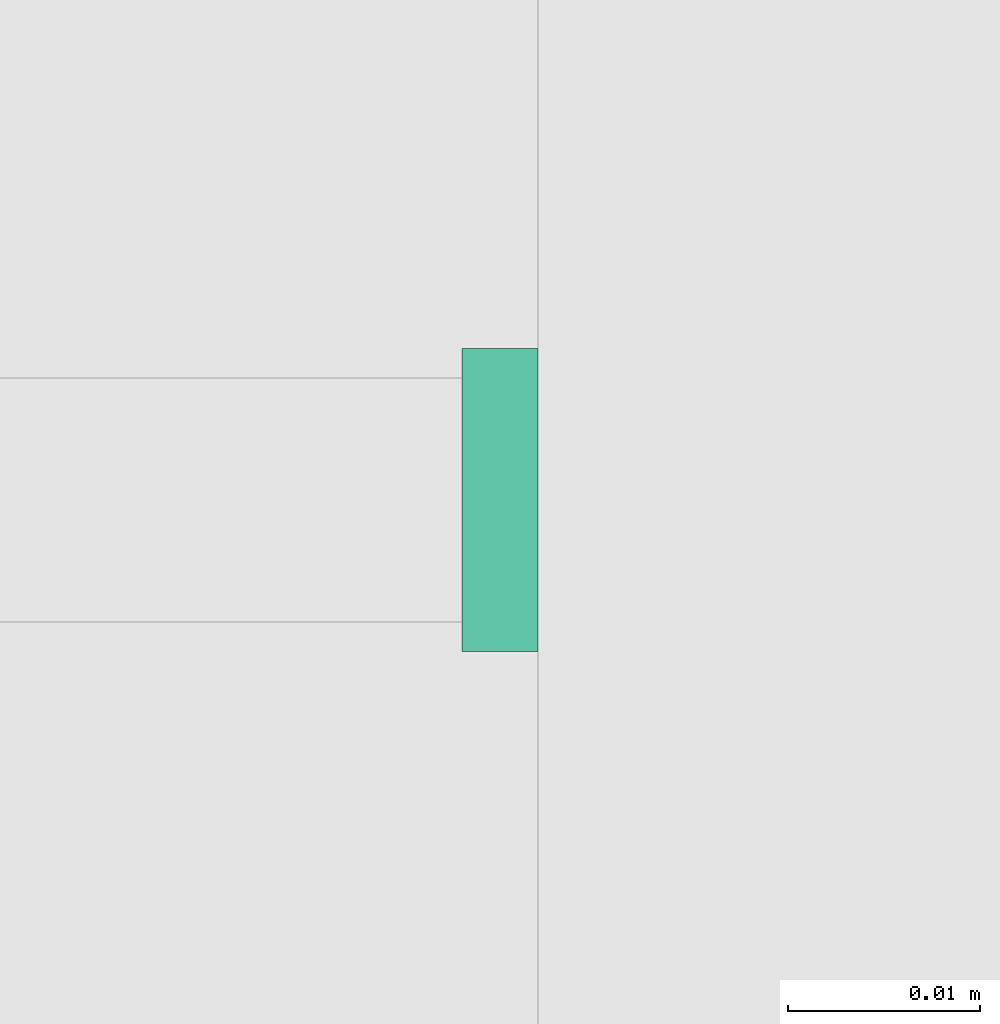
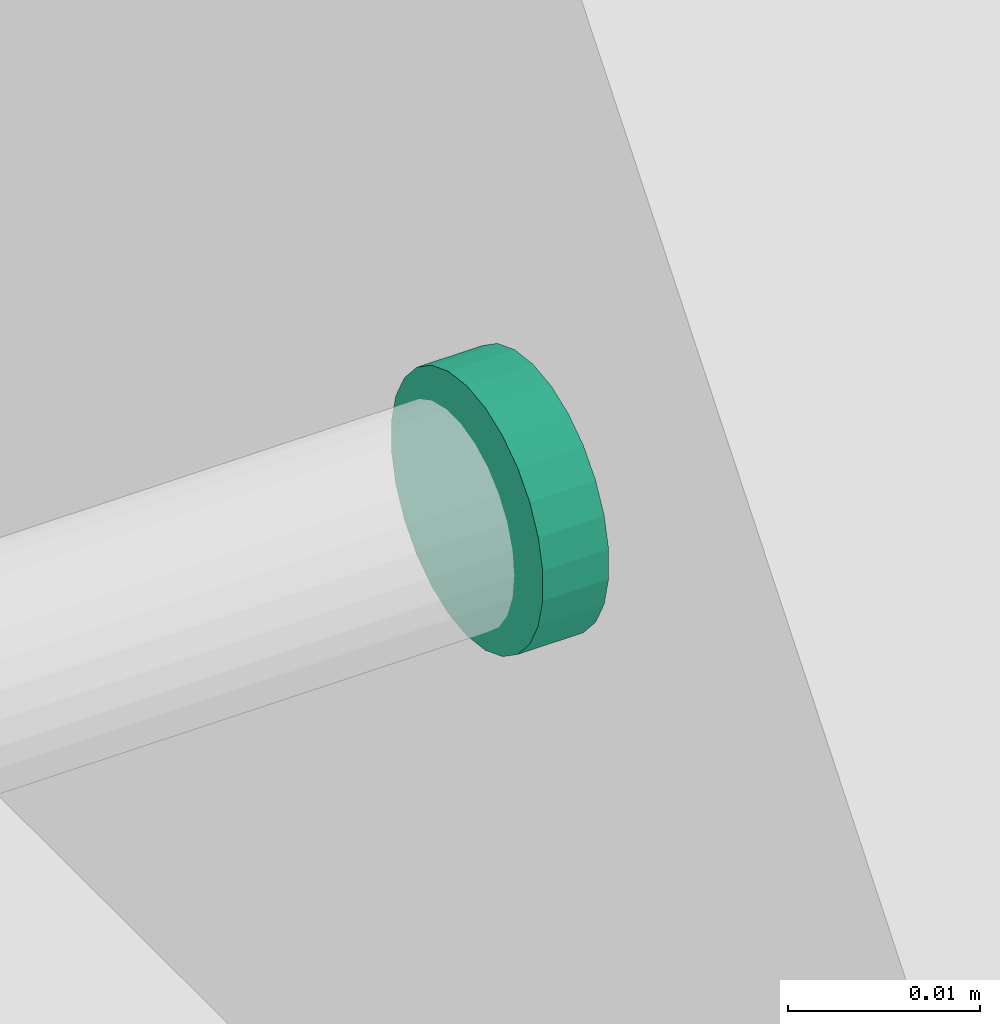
# One storey, part 16 of 24: 1 flow fitting.
"""IFC2X3 building model written with IfcOpenShell, lengths in millimetres."""

from ifc_helpers import new_model, entity, si_unit, converted_unit, derived_unit, direction, frame, origin, origin_2d_with_axis, place, context, subcontext, project, spatial, circle, extrude, source, transform, mapped, material, type_object, type_shapes, element, save


model = new_model("IFC2X3")

# Units and contexts
model_context = context("Model", 3, precision=0.01, world=origin(), true_north=direction((6.123031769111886e-17, 1.0)))
body_context = subcontext(model_context, "Body", "Model", "MODEL_VIEW")
ifc_project = project(units=[si_unit("LENGTHUNIT", "METRE", prefix="MILLI"), si_unit("AREAUNIT", "SQUARE_METRE"), si_unit("VOLUMEUNIT", "CUBIC_METRE"), converted_unit("PLANEANGLEUNIT", "DEGREE", entity("IfcRatioMeasure", 0.017453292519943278), si_unit("PLANEANGLEUNIT", "RADIAN"), dimensions=[0, 0, 0, 0, 0, 0, 0]), si_unit("MASSUNIT", "GRAM", prefix="KILO"), derived_unit("MASSDENSITYUNIT", [(si_unit("MASSUNIT", "GRAM", prefix="KILO"), 1), (si_unit("LENGTHUNIT", "METRE"), -3)]), derived_unit("MOMENTOFINERTIAUNIT", [(si_unit("LENGTHUNIT", "METRE"), 4)]), si_unit("TIMEUNIT", "SECOND"), si_unit("FREQUENCYUNIT", "HERTZ"), si_unit("THERMODYNAMICTEMPERATUREUNIT", "DEGREE_CELSIUS"), derived_unit("THERMALTRANSMITTANCEUNIT", [(si_unit("MASSUNIT", "GRAM", prefix="KILO"), 1), (si_unit("THERMODYNAMICTEMPERATUREUNIT", "KELVIN"), -1), (si_unit("TIMEUNIT", "SECOND"), -3)]), derived_unit("VOLUMETRICFLOWRATEUNIT", [(si_unit("LENGTHUNIT", "METRE"), 3), (si_unit("TIMEUNIT", "SECOND"), -1)]), derived_unit("MASSFLOWRATEUNIT", [(si_unit("MASSUNIT", "GRAM", prefix="KILO"), 1), (si_unit("TIMEUNIT", "SECOND"), -1)]), derived_unit("ROTATIONALFREQUENCYUNIT", [(si_unit("TIMEUNIT", "SECOND"), -1)]), si_unit("ELECTRICCURRENTUNIT", "AMPERE"), si_unit("ELECTRICVOLTAGEUNIT", "VOLT"), si_unit("POWERUNIT", "WATT"), si_unit("FORCEUNIT", "NEWTON", prefix="KILO"), si_unit("ILLUMINANCEUNIT", "LUX"), si_unit("LUMINOUSFLUXUNIT", "LUMEN"), si_unit("LUMINOUSINTENSITYUNIT", "CANDELA"), derived_unit("USERDEFINED", [(si_unit("MASSUNIT", "GRAM", prefix="KILO"), -1), (si_unit("LENGTHUNIT", "METRE"), -2), (si_unit("TIMEUNIT", "SECOND"), 3), (si_unit("LUMINOUSFLUXUNIT", "LUMEN"), 1)]), derived_unit("SOUNDPOWERUNIT", [(si_unit("MASSUNIT", "GRAM", prefix="KILO"), 1), (si_unit("LENGTHUNIT", "METRE"), 2), (si_unit("TIMEUNIT", "SECOND"), -3)]), derived_unit("SOUNDPRESSUREUNIT", [(si_unit("MASSUNIT", "GRAM", prefix="KILO"), 1), (si_unit("LENGTHUNIT", "METRE"), -1), (si_unit("TIMEUNIT", "SECOND"), -2)]), derived_unit("LINEARVELOCITYUNIT", [(si_unit("LENGTHUNIT", "METRE"), 1), (si_unit("TIMEUNIT", "SECOND"), -1)]), si_unit("PRESSUREUNIT", "PASCAL"), derived_unit("USERDEFINED", [(si_unit("LENGTHUNIT", "METRE"), -2), (si_unit("MASSUNIT", "GRAM", prefix="KILO"), 1), (si_unit("TIMEUNIT", "SECOND"), -2)]), derived_unit("LINEARFORCEUNIT", [(si_unit("MASSUNIT", "GRAM", prefix="KILO"), 1), (si_unit("LENGTHUNIT", "METRE"), 1), (si_unit("TIMEUNIT", "SECOND"), -2), (si_unit("LENGTHUNIT", "METRE"), -1)]), derived_unit("PLANARFORCEUNIT", [(si_unit("MASSUNIT", "GRAM", prefix="KILO"), 1), (si_unit("LENGTHUNIT", "METRE"), 1), (si_unit("TIMEUNIT", "SECOND"), -2), (si_unit("LENGTHUNIT", "METRE"), -2)])], contexts=[model_context])

# Site, building, storey
site_placement = place(None, origin())
site = spatial("IfcSite", under=ifc_project, at=site_placement, Name="Default", CompositionType="ELEMENT")
building_placement = place(site_placement, origin())
building = spatial("IfcBuilding", under=site, at=building_placement, CompositionType="ELEMENT")
storey_placement = place(building_placement, origin())
storey = spatial("IfcBuildingStorey", under=building, at=storey_placement, Name="Level 1", CompositionType="ELEMENT", Elevation=0.0)

# Flow fitting
ifc_material = material(Name="<Unnamed>")
pipe_fitting_type = type_object("IfcPipeFittingType", Name="M_Transition - Generic:Standard:Standard : M_Transition - Generic:Standard", PredefinedType="NOTDEFINED", material=ifc_material)
shared_shape = source(origin(), body_context, "Body", "SweptSolid", [
    extrude(circle(Radius=7.937500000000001, at=origin_2d_with_axis()), frame((7726.6477354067, -1863.72925608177, 2710.0), z_axis=(1.0, 0.0, 0.0), x_axis=(0.0, 0.0, 1.0)), (0.0, 0.0, 1.0), 3.9687499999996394),
])
type_shapes(pipe_fitting_type, [shared_shape])
flow_fitting_placement = place(storey_placement, origin())
element("IfcFlowFitting", 1, at=flow_fitting_placement, inside=storey, type_object=pipe_fitting_type, material=ifc_material, Name="M_Transition - Generic:Standard:Standard : M_Transition - Generic:Standard:Standard:Standard : M_Transition - Generic:Standard : M_Transition - Generic:Standard:Standard : M_Transition - Generic:Standard", ObjectType="M_Transition - Generic:Standard:Standard : M_Transition - Generic:Standard:Standard:Standard : M_Transition - Generic:Standard : M_Transition - Generic:Standard:Standard : M_Transition - Generic:Standard", context=body_context, shape_type="MappedRepresentation", body=[
    mapped(shared_shape, transform((0.0, 0.0, 0.0), scale=1.0)),
])

save(model, "model.ifc")
